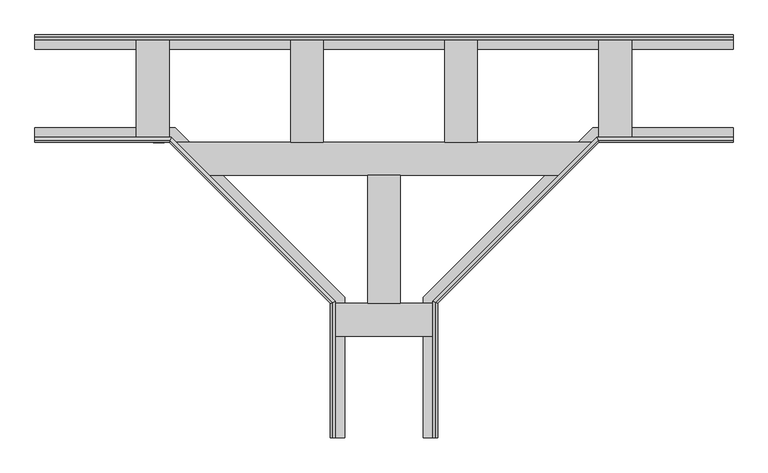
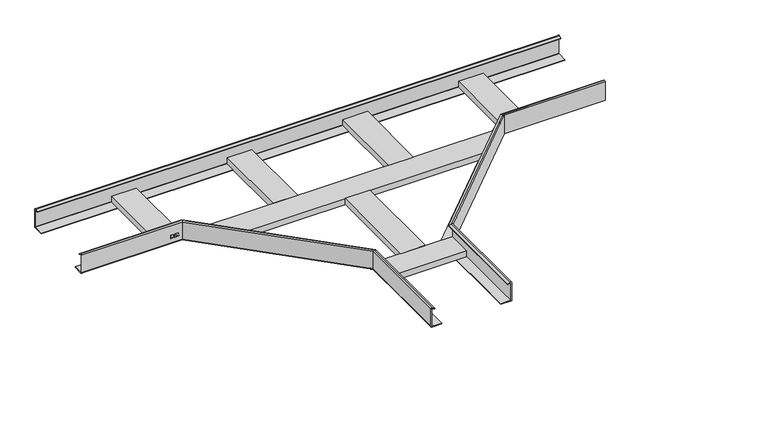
"""IFC4 building model written with IfcOpenShell, lengths in millimetres: cable carrier fitting geometry, КМ Профиль L Т-отвод «Быстрый монтаж» : Т-отвод «Быстрый монтаж»."""

import ifcopenshell
import ifcopenshell.guid

model = None  # the IFC model being written
_history = None  # IfcOwnerHistory: only IFC2X3 demands one
_inside = {}  # id of a spatial element -> (the spatial element, [elements in it])
_under = {}  # id of a project, library or spatial element -> (it, [spatial elements below it])
_declared = {}  # id of a project -> (the project, [libraries it declares])
_typed = {}  # id of a type object -> (the type object, [elements of that type])
_made_of = {}  # id of a material, layer set ... -> (it, [elements and type objects made of it])


def new_model(schema):
    """Start an empty IFC model of exactly this schema.

    Asked for "IFC4X3", IfcOpenShell would pick the latest addendum, in which some entities
    have other attributes; the version numbers below select the first issue.
    IFC2X3 requires an IfcOwnerHistory on every rooted entity: one is made here for all.
    """
    global model, _history
    if schema == "IFC4X3":
        model = ifcopenshell.file(schema_version=(4, 3, 0, 0))
    else:
        model = ifcopenshell.file(schema=schema)
    _inside.clear()
    _under.clear()
    _declared.clear()
    _typed.clear()
    _made_of.clear()
    _history = None
    if model.schema == "IFC2X3":
        org = make("IfcOrganization", Name="unknown")
        user = make(
            "IfcPersonAndOrganization",
            ThePerson=make("IfcPerson", FamilyName="unknown"),
            TheOrganization=org,
        )
        app = make(
            "IfcApplication",
            ApplicationDeveloper=org,
            Version="unknown",
            ApplicationFullName="unknown",
            ApplicationIdentifier="unknown",
        )
        _history = make(
            "IfcOwnerHistory",
            OwningUser=user,
            OwningApplication=app,
            ChangeAction="ADDED",
            CreationDate=0,
        )
    return model


def make(cls, **values):
    """One entity of the class cls with the attributes given. An attribute that is None is left unset."""
    return model.create_entity(
        cls, **{name: value for name, value in values.items() if value is not None}
    )


def rooted(cls, **values):
    """An entity with a GlobalId (a new one), such as an element, a storey or a relation."""
    return make(cls, GlobalId=ifcopenshell.guid.new(), OwnerHistory=_history, **values)


def si_unit(unit_type, name, prefix=None):
    """IfcSIUnit, for example si_unit("LENGTHUNIT", "METRE", prefix="MILLI")."""
    return make("IfcSIUnit", UnitType=unit_type, Prefix=prefix, Name=name)


def assignment(units):
    """IfcUnitAssignment: the units of a project."""
    return None if units is None else make("IfcUnitAssignment", Units=units)


def point(xyz):
    """IfcCartesianPoint."""
    return None if xyz is None else make("IfcCartesianPoint", Coordinates=xyz)


def direction(xyz):
    """IfcDirection."""
    return None if xyz is None else make("IfcDirection", DirectionRatios=xyz)


def frame(location, z_axis=None, x_axis=None):
    """IfcAxis2Placement3D, a coordinate frame: its origin and axes. An axis left out is left unset."""
    return make(
        "IfcAxis2Placement3D",
        Location=point(location),
        Axis=direction(z_axis),
        RefDirection=direction(x_axis),
    )


def frame_2d(location, x_axis=None):
    """IfcAxis2Placement2D, a coordinate frame in the plane: its origin and x axis."""
    return make(
        "IfcAxis2Placement2D", Location=point(location), RefDirection=direction(x_axis)
    )


def origin():
    """The frame at (0, 0, 0) with its axes left unset."""
    return frame((0.0, 0.0, 0.0))


def place(relative_to, where):
    """IfcLocalPlacement: puts the frame where relative to a parent placement (None: the world)."""
    return make(
        "IfcLocalPlacement", PlacementRelTo=relative_to, RelativePlacement=where
    )


def context(
    kind, dimensions, precision=None, world=None, true_north=None, identifier=None
):
    """IfcGeometricRepresentationContext, for example the 3D "Model" context."""
    return make(
        "IfcGeometricRepresentationContext",
        ContextIdentifier=identifier,
        ContextType=kind,
        CoordinateSpaceDimension=dimensions,
        Precision=precision,
        WorldCoordinateSystem=world,
        TrueNorth=true_north,
    )


def project(units=None, contexts=None):
    """IfcProject with its units and contexts."""
    return rooted(
        "IfcProject",
        Name="project",
        RepresentationContexts=contexts,
        UnitsInContext=assignment(units),
    )


def spatial(cls, under=None, at=None, **own):
    """A site, building, storey or space (cls), placed at a placement, below another one or the project."""
    s = rooted(cls, ObjectPlacement=at, **own)
    if under is not None:
        _under.setdefault(under.id(), (under, []))[1].append(s)
    return s


def polyline(points):
    """IfcPolyline through the points."""
    return make("IfcPolyline", Points=[point(p) for p in points])


def circle_curve(where, radius):
    """IfcCircle in the frame where."""
    return make("IfcCircle", Position=where, Radius=radius)


def ellipse_curve(where, semi_axis1, semi_axis2):
    """IfcEllipse in the frame where."""
    return make(
        "IfcEllipse", Position=where, SemiAxis1=semi_axis1, SemiAxis2=semi_axis2
    )


def trimmed(basis, trim1, trim2, sense, master):
    """IfcTrimmedCurve: the piece of a basis curve between two trims."""
    return make(
        "IfcTrimmedCurve",
        BasisCurve=basis,
        Trim1=trim1,
        Trim2=trim2,
        SenseAgreement=sense,
        MasterRepresentation=master,
    )


def segment(curve, same_sense, transition):
    """IfcCompositeCurveSegment."""
    return make(
        "IfcCompositeCurveSegment",
        Transition=transition,
        SameSense=same_sense,
        ParentCurve=curve,
    )


def composite_curve(segments, self_intersect=None):
    """IfcCompositeCurve: segments joined end to end."""
    return make("IfcCompositeCurve", Segments=segments, SelfIntersect=self_intersect)


def outline(outer, holes=None, kind="AREA"):
    """IfcArbitraryClosedProfileDef: a profile drawn as a closed curve; with holes, ...WithVoids."""
    if holes is None:
        return make("IfcArbitraryClosedProfileDef", ProfileType=kind, OuterCurve=outer)
    return make(
        "IfcArbitraryProfileDefWithVoids",
        ProfileType=kind,
        OuterCurve=outer,
        InnerCurves=holes,
    )


def extrude(swept, where, along, depth):
    """IfcExtrudedAreaSolid: the profile swept, set in the frame where, extruded along a direction by depth."""
    return make(
        "IfcExtrudedAreaSolid",
        SweptArea=swept,
        Position=where,
        ExtrudedDirection=direction(along),
        Depth=depth,
    )


def shape(context_of_items, identifier, shape_type, items):
    """IfcShapeRepresentation: the items that make up one representation, for example the "Body"."""
    return make(
        "IfcShapeRepresentation",
        ContextOfItems=context_of_items,
        RepresentationIdentifier=identifier,
        RepresentationType=shape_type,
        Items=items,
    )


def source(mapping_origin, context_of_items, identifier, shape_type, items):
    """IfcRepresentationMap: a shape defined once, which mapped items show again and again."""
    return make(
        "IfcRepresentationMap",
        MappingOrigin=mapping_origin,
        MappedRepresentation=shape(context_of_items, identifier, shape_type, items),
    )


def transform(
    local_origin,
    x_axis=None,
    y_axis=None,
    z_axis=None,
    scale=None,
    scale2=None,
    scale3=None,
    uniform=True,
):
    """IfcCartesianTransformationOperator3D, or its non-uniform kind. x_axis, y_axis, z_axis: its Axis1, 2, 3."""
    if uniform:
        return make(
            "IfcCartesianTransformationOperator3D",
            Axis1=direction(x_axis),
            Axis2=direction(y_axis),
            LocalOrigin=point(local_origin),
            Scale=scale,
            Axis3=direction(z_axis),
        )
    return make(
        "IfcCartesianTransformationOperator3DnonUniform",
        Axis1=direction(x_axis),
        Axis2=direction(y_axis),
        LocalOrigin=point(local_origin),
        Scale=scale,
        Axis3=direction(z_axis),
        Scale2=scale2,
        Scale3=scale3,
    )


def mapped(mapping_source, mapping_target):
    """IfcMappedItem: shows the shape of a source again, moved by a transform."""
    return make(
        "IfcMappedItem", MappingSource=mapping_source, MappingTarget=mapping_target
    )


def made_of(thing, what):
    """Note that an element or type object is made of a material, layer set ...; save() writes the relation."""
    if what is not None:
        _made_of.setdefault(what.id(), (what, []))[1].append(thing)
    return thing


def element(
    cls,
    number,
    at=None,
    inside=None,
    cuts=None,
    type_object=None,
    material=None,
    context=None,
    identifier="Body",
    shape_type=None,
    held_by="IfcProductDefinitionShape",
    body=None,
    shapes=None,
    **own,
):
    """One element of the class cls, such as IfcWall. Its Tag is "e" and its number.

    at: its placement. inside: the storey or other place that contains it. cuts: it is an
    opening in that element (IfcRelVoidsElement). A single representation is given by context,
    identifier, shape_type and body (its items); several are given by shapes. held_by: the class
    of the entity that holds the representations. save() writes the other relations.
    """
    e = rooted(cls, Tag="e%d" % number, ObjectPlacement=at, **own)
    if body is not None:
        shapes = [shape(context, identifier, shape_type, body)]
    if shapes is not None:
        e.Representation = make(held_by, Representations=shapes)
    if inside is not None:
        _inside.setdefault(inside.id(), (inside, []))[1].append(e)
    if cuts is not None:
        rooted(
            "IfcRelVoidsElement", RelatingBuildingElement=cuts, RelatedOpeningElement=e
        )
    if type_object is not None:
        _typed.setdefault(type_object.id(), (type_object, []))[1].append(e)
    return made_of(e, material)


def aggregate(whole, parts):
    """IfcRelAggregates: a whole, such as a stair, and the parts it consists of."""
    return rooted("IfcRelAggregates", RelatingObject=whole, RelatedObjects=parts)


def save(model, path):
    """Write the relations noted so far, then the file.

    IfcRelAggregates (storeys below a building ...), IfcRelContainedInSpatialStructure (elements
    in a storey), IfcRelDefinesByType, IfcRelAssociatesMaterial and IfcRelDeclares: one each for
    every whole, place, type object, material and project.
    """
    for whole, parts in _under.values():
        aggregate(whole, parts)
    for where, things in _inside.values():
        rooted(
            "IfcRelContainedInSpatialStructure",
            RelatedElements=things,
            RelatingStructure=where,
        )
    for kind, things in _typed.values():
        rooted("IfcRelDefinesByType", RelatedObjects=things, RelatingType=kind)
    for what, things in _made_of.values():
        rooted("IfcRelAssociatesMaterial", RelatedObjects=things, RelatingMaterial=what)
    for by, libraries in _declared.values():
        rooted("IfcRelDeclares", RelatingContext=by, RelatedDefinitions=libraries)
    model.write(path)


def plane_surface(at):
    """IfcPlane: the flat surface through the origin of the frame at, square to its z axis."""
    return make("IfcPlane", Position=at)


def cylinder_surface(at, radius):
    """IfcCylindricalSurface: all points at the distance radius from the z axis of the frame at."""
    return make("IfcCylindricalSurface", Position=at, Radius=radius)


def revolved_surface(curve, axis_point, axis_direction):
    """IfcSurfaceOfRevolution: the curve turned about the line through axis_point along axis_direction."""
    return make(
        "IfcSurfaceOfRevolution",
        SweptCurve=make("IfcArbitraryOpenProfileDef", ProfileType="CURVE", Curve=curve),
        AxisPosition=make("IfcAxis1Placement", Location=point(axis_point), Axis=direction(axis_direction)),
    )


def advanced_brep(points, edges, surfaces, faces):
    """IfcAdvancedBrep: a solid bounded by faces that lie on surfaces and meet in shared edges.

    An edge is (start, end): straight between two places in points (the first is 0);
    or (start, end, curve); or (start, end, curve, False) where it runs against its curve.
    A face is (place in surfaces, loops), or (place, loops, False) where it looks against
    its surface's normal. A loop lists edges by number (the first is 1), with a minus sign
    where the edge is run from its end to its start. The first loop is the outer one.
    """
    corners = [point(p) for p in points]
    vertices = [make("IfcVertexPoint", VertexGeometry=c) for c in corners]
    made = []
    for start, end, *more in edges:
        made.append(
            make(
                "IfcEdgeCurve",
                EdgeStart=vertices[start],
                EdgeEnd=vertices[end],
                EdgeGeometry=more[0] if more else make("IfcPolyline", Points=[corners[start], corners[end]]),
                SameSense=more[1] if len(more) > 1 else True,
            )
        )
    hull = []
    for where, loops, *sense in faces:
        bounds = []
        for j, loop in enumerate(loops):
            ring = [make("IfcOrientedEdge", EdgeElement=made[abs(k) - 1], Orientation=k > 0) for k in loop]
            bounds.append(
                make(
                    "IfcFaceOuterBound" if j == 0 else "IfcFaceBound",
                    Bound=make("IfcEdgeLoop", EdgeList=ring),
                    Orientation=True,
                )
            )
        hull.append(make("IfcAdvancedFace", Bounds=bounds, FaceSurface=surfaces[where], SameSense=sense[0] if sense else True))
    return make("IfcAdvancedBrep", Outer=make("IfcClosedShell", CfsFaces=hull))


def cable_carrier_fitting_00c6798b(model_context):
    return source(origin(), model_context, "Body", "SolidModel", [
        extrude(outline(polyline([(-1.986157, -429.2388781), (-9.737421, -429.2388781), (-9.737421, -425.6630512), (-6.5720802, -425.6630512), (-9.737421, -423.9588467), (-9.737421, -420.0604353), (-6.194034, -421.9277444), (-5.5086619, -424.1694955), (-1.986157, -421.703011), (-1.986157, -423.8289757), (-5.564509, -425.7316192), (-1.986157, -425.7316192), (-1.986157, -429.2388781)])), frame((0.0, -100.8, 0.0), z_axis=(0.0, 1.0, 0.0), x_axis=(0.0, 0.0, 1.0)), (0.0, 0.0, 1.0), 0.8),
        extrude(outline(polyline([(-9.737421, -417.9962759), (-5.0696135, -417.6126012), (-9.7434681, -416.2045824), (-9.7434681, -414.7300717), (-5.0541919, -413.2500032), (-9.7429915, -412.7725105), (-9.7429915, -408.8700699), (-1.9623682, -410.0615674), (-1.9623682, -413.2555223), (-5.0390232, -414.2768297), (-1.9647569, -415.0433304), (-1.9647569, -418.0740589), (-9.737421, -419.8943395), (-9.737421, -417.9962759)])), frame((0.0, -100.8, 0.0), z_axis=(0.0, 1.0, 0.0), x_axis=(0.0, 0.0, 1.0)), (0.0, 0.0, 1.0), 0.8),
        extrude(outline(polyline([(-400.0, -97.0), (-461.0, -97.0), (-461.0, 97.0), (-400.0, 97.0), (-400.0, -97.0)])), frame((0.0, 0.0, -23.5), z_axis=(0.0, 0.0, 1.0), x_axis=(1.0, 0.0, 0.0)), (0.0, 0.0, 1.0), 16.0),
        extrude(outline(polyline([(461.0, -97.0), (400.0, -97.0), (400.0, 97.0), (461.0, 97.0), (461.0, -97.0)])), frame((0.0, 0.0, -23.5), z_axis=(0.0, 0.0, 1.0), x_axis=(1.0, 0.0, 0.0)), (0.0, 0.0, 1.0), 16.0),
        extrude(outline(polyline([(-113.0, 97.0), (-113.0, -100.0), (-174.0, -100.0), (-174.0, 97.0), (-113.0, 97.0)])), frame((0.0, 0.0, -23.5), z_axis=(0.0, 0.0, 1.0), x_axis=(1.0, 0.0, 0.0)), (0.0, 0.0, 1.0), 16.0),
        extrude(outline(polyline([(113.0, -100.0), (113.0, 97.0), (174.0, 97.0), (174.0, -100.0), (113.0, -100.0)])), frame((0.0, 0.0, -23.5), z_axis=(0.0, 0.0, 1.0), x_axis=(1.0, 0.0, 0.0)), (0.0, 0.0, 1.0), 16.0),
        extrude(outline(polyline([(30.5, -161.0), (30.5, -400.0), (-30.5, -400.0), (-30.5, -161.0), (30.5, -161.0)])), frame((0.0, 0.0, -23.5), z_axis=(0.0, 0.0, 1.0), x_axis=(1.0, 0.0, 0.0)), (0.0, 0.0, 1.0), 16.0),
        extrude(outline(polyline([(-97.0, -400.0), (97.0, -400.0), (97.0, -461.0), (-97.0, -461.0), (-97.0, -400.0)])), frame((0.0, 0.0, -23.5), z_axis=(0.0, 0.0, 1.0), x_axis=(1.0, 0.0, 0.0)), (0.0, 0.0, 1.0), 16.0),
        extrude(outline(polyline([(331.9289322, -161.0), (-331.9289322, -161.0), (-392.9289322, -100.0), (392.9289322, -100.0), (331.9289322, -161.0)])), frame((0.0, 0.0, -23.5), z_axis=(0.0, 0.0, 1.0), x_axis=(1.0, 0.0, 0.0)), (0.0, 0.0, 1.0), 16.0),
        extrude(outline(composite_curve([segment(trimmed(circle_curve(frame_2d((97.5, -22.5)), 1.0), [point((97.5, -23.5))], [point((98.5, -22.5))], True, "CARTESIAN"), True, "CONTINUOUS"), segment(polyline([(98.5, -22.5), (98.5, 22.3007162)]), True, "CONTINUOUS"), segment(trimmed(circle_curve(frame_2d((97.5, 22.3007162)), 1.0), [point((98.5, 22.3007162))], [point((97.0305284, 23.1836637))], True, "CARTESIAN"), True, "CONTINUOUS"), segment(polyline([(97.0305284, 23.1836637), (91.0, 19.9771749), (91.0, 21.67603), (96.7671626, 24.7424847)]), True, "CONTINUOUS"), segment(trimmed(circle_curve(frame_2d((97.8, 22.8)), 2.2), [point((96.7671626, 24.7424847))], [point((100.0, 22.8))], False, "CARTESIAN"), True, "CONTINUOUS"), segment(polyline([(100.0, 22.8), (100.0, -22.8)]), True, "CONTINUOUS"), segment(trimmed(circle_curve(frame_2d((97.8, -22.8)), 2.2), [point((100.0, -22.8))], [point((97.8, -25.0))], False, "CARTESIAN"), True, "CONTINUOUS"), segment(polyline([(97.8, -25.0), (73.0, -25.0), (73.0, -23.5), (97.5, -23.5)]), True, "CONTINUOUS")], self_intersect=False)), frame((-650.0, 0.0, 0.0), z_axis=(1.0, 0.0, 0.0), x_axis=(0.0, 1.0, 0.0)), (0.0, 0.0, 1.0), 1300.0),
        advanced_brep(
        [(73.0, -650.0, -25.0), (100.0, -650.0, -25.0), (100.0, -650.0, 22.8), (96.7671626, -650.0, 24.7424847), (91.0, -650.0, 21.67603), (91.0, -650.0, 19.9771749), (97.0305284, -650.0, 23.1836637), (98.5, -650.0, 22.3007162), (98.5, -650.0, -23.5), (73.0, -650.0, -23.5), (73.0, -388.8162338, -25.0), (388.8162338, -73.0, -25.0), (650.0, -73.0, -25.0), (650.0, -100.0, -25.0), (400.0, -100.0, -25.0), (100.0, -400.0, -25.0), (100.0, -400.0, 22.8), (96.7671626, -398.6609149, 24.7424847), (91.0, -396.2720779, 21.67603), (91.0, -396.2720779, 19.9771749), (97.0305284, -398.7700046, 23.1836637), (98.5, -399.3786797, 22.3007162), (98.5, -399.3786797, -23.5), (399.3786797, -98.5, -23.5), (650.0, -98.5, -23.5), (650.0, -73.0, -23.5), (388.8162338, -73.0, -23.5), (73.0, -388.8162338, -23.5), (400.0, -100.0, 22.8), (398.6609149, -96.7671626, 24.7424847), (396.2720779, -91.0, 21.67603), (396.2720779, -91.0, 19.9771749), (398.7700046, -97.0305284, 23.1836637), (399.3786797, -98.5, 22.3007162), (650.0, -98.5, 22.3007162), (650.0, -97.0305284, 23.1836637), (650.0, -91.0, 19.9771749), (650.0, -91.0, 21.67603), (650.0, -96.7671626, 24.7424847), (650.0, -100.0, 22.8)],
        [
            (0, 1),
            (1, 2),
            (2, 3, circle_curve(frame((97.8, -650.0, 22.8), z_axis=(0.0, -1.0, 0.0), x_axis=(-1.0, 0.0, 0.0)), 2.2)),
            (3, 4),
            (4, 5),
            (5, 6),
            (6, 7, circle_curve(frame((97.5, -650.0, 22.3007162), z_axis=(0.0, 1.0, 0.0), x_axis=(-1.0, 0.0, 0.0)), 1.0)),
            (7, 8),
            (8, 9),
            (9, 0),
            (0, 10),
            (10, 11),
            (11, 12),
            (12, 13),
            (13, 14),
            (14, 15),
            (15, 1),
            (15, 16),
            (16, 2),
            (16, 17, ellipse_curve(frame((97.8, -399.0887302, 22.8), z_axis=(-0.382683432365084, -0.9238795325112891, 0.0), x_axis=(0.9238795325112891, -0.3826834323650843, 0.0)), 2.3812628, 2.2)),
            (17, 3),
            (17, 18),
            (18, 4),
            (18, 19),
            (19, 5),
            (19, 20),
            (20, 6),
            (20, 21, ellipse_curve(frame((97.5, -398.9644661, 22.3007162), z_axis=(0.382683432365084, 0.9238795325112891, 0.0), x_axis=(-0.9238795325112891, 0.3826834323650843, 0.0)), 1.0823922, 1.0)),
            (21, 7),
            (21, 22),
            (22, 8),
            (22, 23),
            (23, 24),
            (24, 25),
            (25, 26),
            (26, 27),
            (27, 9),
            (27, 10),
            (14, 28),
            (28, 16),
            (28, 29, ellipse_curve(frame((399.0887302, -97.8, 22.8), z_axis=(-0.9238795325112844, -0.38268343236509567, 0.0), x_axis=(0.382683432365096, -0.9238795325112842, 0.0)), 2.3812628, 2.2)),
            (29, 17),
            (29, 30),
            (30, 18),
            (30, 31),
            (31, 19),
            (31, 32),
            (32, 20),
            (32, 33, ellipse_curve(frame((398.9644661, -97.5, 22.3007162), z_axis=(0.9238795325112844, 0.38268343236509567, 0.0), x_axis=(-0.382683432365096, 0.9238795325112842, 0.0)), 1.0823922, 1.0)),
            (33, 21),
            (33, 23),
            (26, 11),
            (12, 25),
            (24, 34),
            (34, 35, circle_curve(frame((650.0, -97.5, 22.3007162), z_axis=(-1.0, 0.0, 0.0), x_axis=(0.0, 1.0, 0.0)), 1.0)),
            (35, 36),
            (36, 37),
            (37, 38),
            (38, 39, circle_curve(frame((650.0, -97.8, 22.8), z_axis=(1.0, 0.0, 0.0), x_axis=(0.0, 1.0, 0.0)), 2.2)),
            (39, 13),
            (39, 28),
            (38, 29),
            (37, 30),
            (36, 31),
            (35, 32),
            (34, 33),
        ],
        [
            plane_surface(frame((100.0, -650.0, 25.0), z_axis=(0.0, -1.0, 0.0), x_axis=(0.0, 0.0, 1.0))),
            plane_surface(frame((73.0, -650.0, -25.0), z_axis=(0.0, 0.0, -1.0), x_axis=(0.0, 1.0, 0.0))),
            plane_surface(frame((100.0, -650.0, -25.0), z_axis=(1.0, 0.0, 0.0), x_axis=(0.0, 1.0, 0.0))),
            cylinder_surface(frame((97.8, -650.0, 22.8), z_axis=(0.0, -1.0, 0.0), x_axis=(-1.0, 0.0, 0.0)), 2.2),
            plane_surface(frame((96.7671626, -650.0, 24.7424847), z_axis=(-0.46947156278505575, 0.0, 0.882947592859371), x_axis=(0.0, 1.0, 0.0))),
            plane_surface(frame((91.0, -650.0, 21.67603), z_axis=(-1.0, 0.0, 0.0), x_axis=(0.0, 1.0, 0.0))),
            plane_surface(frame((91.0, -650.0, 19.9771749), z_axis=(0.46947156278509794, 0.0, -0.8829475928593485), x_axis=(0.0, 1.0, 0.0))),
            revolved_surface(polyline([(96.5, -398.5502525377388, 22.3007162), (96.5, -650.0, 22.3007162)]), (97.5, -650.0, 22.3007162), (0.0, 1.0, 0.0)),
            plane_surface(frame((98.5, -650.0, 22.3007162), z_axis=(-1.0, 0.0, 0.0), x_axis=(0.0, 1.0, 0.0))),
            plane_surface(frame((98.5, -650.0, -23.5), z_axis=(0.0, 0.0, 1.0), x_axis=(0.0, 1.0, 0.0))),
            plane_surface(frame((73.0, -650.0, -23.5), z_axis=(-1.0, 0.0, 0.0), x_axis=(0.0, 1.0, 0.0))),
            plane_surface(frame((100.0, -400.0, -25.0), z_axis=(0.7071067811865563, -0.7071067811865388, 0.0), x_axis=(0.7071067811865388, 0.7071067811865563, 0.0))),
            cylinder_surface(frame((98.4443651, -398.4443651, 22.8), z_axis=(-0.7071067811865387, -0.7071067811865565, 0.0), x_axis=(-0.7071067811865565, 0.7071067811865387, 0.0)), 2.2),
            plane_surface(frame((96.7671626, -398.6609149, 24.7424847), z_axis=(-0.33196652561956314, 0.33196652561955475, 0.8829475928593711), x_axis=(0.7071067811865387, 0.7071067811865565, 0.0))),
            plane_surface(frame((91.0, -396.2720779, 21.67603), z_axis=(-0.7071067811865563, 0.7071067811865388, 0.0), x_axis=(0.7071067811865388, 0.7071067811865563, 0.0))),
            plane_surface(frame((91.0, -396.2720779, 19.9771749), z_axis=(0.3319665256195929, -0.3319665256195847, -0.8829475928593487), x_axis=(0.7071067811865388, 0.7071067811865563, 0.0))),
            revolved_surface(polyline([(398.550252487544, -96.49999995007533, 22.3007162), (96.49999995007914, -398.55025248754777, 22.3007162)]), (98.232233, -398.232233, 22.3007162), (0.7071067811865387, 0.7071067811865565, 0.0)),
            plane_surface(frame((98.5, -399.3786797, 22.3007162), z_axis=(-0.7071067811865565, 0.7071067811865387, 0.0), x_axis=(0.7071067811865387, 0.7071067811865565, 0.0))),
            plane_surface(frame((73.0, -388.8162338, -23.5), z_axis=(-0.7071067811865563, 0.7071067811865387, 0.0), x_axis=(0.7071067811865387, 0.7071067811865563, 0.0))),
            plane_surface(frame((650.0, -100.0, 25.0), z_axis=(1.0, 0.0, 0.0), x_axis=(0.0, 0.0, 1.0))),
            plane_surface(frame((400.0, -100.0, -25.0), z_axis=(0.0, -1.0, 0.0), x_axis=(1.0, 0.0, 0.0))),
            cylinder_surface(frame((400.0, -97.8, 22.8), z_axis=(-1.0, 0.0, 0.0), x_axis=(0.0, 1.0, 0.0)), 2.2),
            plane_surface(frame((398.6609149, -96.7671626, 24.7424847), z_axis=(0.0, 0.4694715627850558, 0.8829475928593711), x_axis=(1.0, 0.0, 0.0))),
            plane_surface(frame((396.2720779, -91.0, 21.67603), z_axis=(0.0, 1.0, 0.0), x_axis=(1.0, 0.0, 0.0))),
            plane_surface(frame((396.2720779, -91.0, 19.9771749), z_axis=(0.0, -0.46947156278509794, -0.8829475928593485), x_axis=(1.0, 0.0, 0.0))),
            revolved_surface(polyline([(650.0, -96.5, 22.3007162), (398.5502525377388, -96.5, 22.3007162)]), (400.0, -97.5, 22.3007162), (1.0, 0.0, 0.0)),
            plane_surface(frame((399.3786797, -98.5, 22.3007162), z_axis=(0.0, 1.0, 0.0), x_axis=(1.0, 0.0, 0.0))),
            plane_surface(frame((388.8162338, -73.0, -23.5), z_axis=(0.0, 1.0, 0.0), x_axis=(1.0, 0.0, 0.0))),
        ],
        [
            (0, [[1, 2, 3, 4, 5, 6, 7, 8, 9, 10]]),
            (1, [[-1, 11, 12, 13, 14, 15, 16, 17]]),
            (2, [[-2, -17, 18, 19]]),
            (3, [[-3, -19, 20, 21]]),
            (4, [[-4, -21, 22, 23]]),
            (5, [[-5, -23, 24, 25]]),
            (6, [[-6, -25, 26, 27]]),
            (7, [[-7, -27, 28, 29]]),
            (8, [[-8, -29, 30, 31]]),
            (9, [[-9, -31, 32, 33, 34, 35, 36, 37]]),
            (10, [[-10, -37, 38, -11]]),
            (11, [[-18, -16, 39, 40]]),
            (12, [[-20, -40, 41, 42]]),
            (13, [[-22, -42, 43, 44]]),
            (14, [[-24, -44, 45, 46]]),
            (15, [[-26, -46, 47, 48]]),
            (16, [[-28, -48, 49, 50]]),
            (17, [[-30, -50, 51, -32]]),
            (18, [[-38, -36, 52, -12]]),
            (19, [[53, -34, 54, 55, 56, 57, 58, 59, 60, -14]]),
            (20, [[-39, -15, -60, 61]]),
            (21, [[-41, -61, -59, 62]]),
            (22, [[-43, -62, -58, 63]]),
            (23, [[-45, -63, -57, 64]]),
            (24, [[-47, -64, -56, 65]]),
            (25, [[-49, -65, -55, 66]]),
            (26, [[-51, -66, -54, -33]]),
            (27, [[-52, -35, -53, -13]]),
        ],
    ),
        advanced_brep(
        [(-650.0, -73.0, -23.5), (-650.0, -73.0, -25.0), (-650.0, -97.8, -25.0), (-650.0, -100.0, -22.8), (-650.0, -100.0, 22.8), (-650.0, -96.7671626, 24.7424847), (-650.0, -91.0, 21.67603), (-650.0, -91.0, 19.9771749), (-650.0, -97.0305284, 23.1836637), (-650.0, -98.5, 22.3007162), (-650.0, -98.5, -22.5), (-650.0, -97.5, -23.5), (-388.8162338, -73.0, -23.5), (-388.8162338, -73.0, -25.0), (-73.0, -388.8162338, -25.0), (-73.0, -650.0, -25.0), (-97.8, -650.0, -25.0), (-97.8, -399.0887302, -25.0), (-399.0887302, -97.8, -25.0), (-400.0, -100.0, -22.8), (-400.0, -100.0, 22.8), (-399.3786797, -98.5, 22.3007162), (-399.3786797, -98.5, -22.5), (-398.9644661, -97.5, -23.5), (-97.5, -398.9644661, -23.5), (-97.5, -650.0, -23.5), (-73.0, -650.0, -23.5), (-73.0, -388.8162338, -23.5), (-100.0, -400.0, -22.8), (-100.0, -400.0, 22.8), (-98.5, -399.3786797, 22.3007162), (-98.5, -399.3786797, -22.5), (-98.5, -650.0, -22.5), (-98.5, -650.0, 22.3007162), (-97.0305284, -650.0, 23.1836637), (-91.0, -650.0, 19.9771749), (-91.0, -650.0, 21.67603), (-96.7671626, -650.0, 24.7424847), (-100.0, -650.0, 22.8), (-100.0, -650.0, -22.8), (-398.6609149, -96.7671626, 24.7424847), (-396.2720779, -91.0, 21.67603), (-396.2720779, -91.0, 19.9771749), (-398.7700046, -97.0305284, 23.1836637), (-96.7671626, -398.6609149, 24.7424847), (-91.0, -396.2720779, 21.67603), (-91.0, -396.2720779, 19.9771749), (-97.0305284, -398.7700046, 23.1836637)],
        [
            (0, 1),
            (1, 2),
            (2, 3, circle_curve(frame((-650.0, -97.8, -22.8), z_axis=(-1.0, 0.0, 0.0), x_axis=(0.0, 1.0, 0.0)), 2.2)),
            (3, 4),
            (4, 5, circle_curve(frame((-650.0, -97.8, 22.8), z_axis=(-1.0, 0.0, 0.0), x_axis=(0.0, 1.0, 0.0)), 2.2)),
            (5, 6),
            (6, 7),
            (7, 8),
            (8, 9, circle_curve(frame((-650.0, -97.5, 22.3007162), z_axis=(1.0, 0.0, 0.0), x_axis=(0.0, 1.0, 0.0)), 1.0)),
            (9, 10),
            (10, 11, circle_curve(frame((-650.0, -97.5, -22.5), z_axis=(1.0, 0.0, 0.0), x_axis=(0.0, 1.0, 0.0)), 1.0)),
            (11, 0),
            (0, 12),
            (12, 13),
            (13, 1),
            (13, 14),
            (14, 15),
            (15, 16),
            (16, 17),
            (17, 18),
            (18, 2),
            (18, 19, ellipse_curve(frame((-399.0887302, -97.8, -22.8), z_axis=(-0.9238795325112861, 0.38268343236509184, 0.0), x_axis=(-0.3826834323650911, -0.9238795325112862, 0.0)), 2.3812628, 2.2)),
            (19, 3),
            (19, 20),
            (20, 4),
            (9, 21),
            (21, 22),
            (22, 10),
            (22, 23, ellipse_curve(frame((-398.9644661, -97.5, -22.5), z_axis=(0.9238795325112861, -0.38268343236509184, 0.0), x_axis=(0.3826834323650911, 0.9238795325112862, 0.0)), 1.0823922, 1.0)),
            (23, 11),
            (23, 24),
            (24, 25),
            (25, 26),
            (26, 27),
            (27, 12),
            (27, 14),
            (17, 28, ellipse_curve(frame((-97.8, -399.0887302, -22.8), z_axis=(-0.3826834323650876, 0.9238795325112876, 0.0), x_axis=(-0.9238795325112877, -0.3826834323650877, 0.0)), 2.3812628, 2.2)),
            (28, 19),
            (28, 29),
            (29, 20),
            (21, 30),
            (30, 31),
            (31, 22),
            (31, 24, ellipse_curve(frame((-97.5, -398.9644661, -22.5), z_axis=(0.3826834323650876, -0.9238795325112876, 0.0), x_axis=(0.9238795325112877, 0.3826834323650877, 0.0)), 1.0823922, 1.0)),
            (25, 32, circle_curve(frame((-97.5, -650.0, -22.5), z_axis=(0.0, 1.0, 0.0), x_axis=(1.0, 0.0, 0.0)), 1.0)),
            (32, 33),
            (33, 34, circle_curve(frame((-97.5, -650.0, 22.3007162), z_axis=(0.0, 1.0, 0.0), x_axis=(1.0, 0.0, 0.0)), 1.0)),
            (34, 35),
            (35, 36),
            (36, 37),
            (37, 38, circle_curve(frame((-97.8, -650.0, 22.8), z_axis=(0.0, -1.0, 0.0), x_axis=(1.0, 0.0, 0.0)), 2.2)),
            (38, 39),
            (39, 16, circle_curve(frame((-97.8, -650.0, -22.8), z_axis=(0.0, -1.0, 0.0), x_axis=(1.0, 0.0, 0.0)), 2.2)),
            (15, 26),
            (39, 28),
            (38, 29),
            (30, 33),
            (32, 31),
            (20, 40, ellipse_curve(frame((-399.0887302, -97.8, 22.8), z_axis=(-0.9238795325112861, 0.38268343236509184, 0.0), x_axis=(-0.3826834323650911, -0.9238795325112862, 0.0)), 2.3812628, 2.2)),
            (40, 5),
            (40, 41),
            (41, 6),
            (41, 42),
            (42, 7),
            (42, 43),
            (43, 8),
            (43, 21, ellipse_curve(frame((-398.9644661, -97.5, 22.3007162), z_axis=(0.9238795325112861, -0.38268343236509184, 0.0), x_axis=(0.3826834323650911, 0.9238795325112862, 0.0)), 1.0823922, 1.0)),
            (29, 44, ellipse_curve(frame((-97.8, -399.0887302, 22.8), z_axis=(-0.3826834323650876, 0.9238795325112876, 0.0), x_axis=(-0.9238795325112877, -0.3826834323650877, 0.0)), 2.3812628, 2.2)),
            (44, 40),
            (44, 45),
            (45, 41),
            (45, 46),
            (46, 42),
            (46, 47),
            (47, 43),
            (47, 30, ellipse_curve(frame((-97.5, -398.9644661, 22.3007162), z_axis=(0.3826834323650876, -0.9238795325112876, 0.0), x_axis=(0.9238795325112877, 0.3826834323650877, 0.0)), 1.0823922, 1.0)),
            (37, 44),
            (36, 45),
            (35, 46),
            (34, 47),
        ],
        [
            plane_surface(frame((-650.0, -100.0, 25.0), z_axis=(-1.0, 0.0, 0.0), x_axis=(0.0, 0.0, 1.0))),
            plane_surface(frame((-650.0, -73.0, -23.5), z_axis=(0.0, 1.0, 0.0), x_axis=(1.0, 0.0, 0.0))),
            plane_surface(frame((-650.0, -73.0, -25.0), z_axis=(0.0, 0.0, -1.0), x_axis=(1.0, 0.0, 0.0))),
            cylinder_surface(frame((-650.0, -97.8, -22.8), z_axis=(-1.0, 0.0, 0.0), x_axis=(0.0, 1.0, 0.0)), 2.2),
            plane_surface(frame((-650.0, -100.0, -22.8), z_axis=(0.0, -1.0, 0.0), x_axis=(1.0, 0.0, 0.0))),
            plane_surface(frame((-650.0, -98.5, 22.3007162), z_axis=(0.0, 1.0, 0.0), x_axis=(1.0, 0.0, 0.0))),
            revolved_surface(polyline([(-398.55025253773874, -96.5, -22.5), (-650.0, -96.5, -22.5)]), (-650.0, -97.5, -22.5), (1.0, 0.0, 0.0)),
            plane_surface(frame((-650.0, -97.5, -23.5), z_axis=(0.0, 0.0, 1.0), x_axis=(1.0, 0.0, 0.0))),
            plane_surface(frame((-388.8162338, -73.0, -23.5), z_axis=(0.7071067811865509, 0.7071067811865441, 0.0), x_axis=(0.7071067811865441, -0.7071067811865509, 0.0))),
            cylinder_surface(frame((-398.4443651, -98.4443651, -22.8), z_axis=(-0.7071067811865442, 0.7071067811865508, 0.0), x_axis=(0.7071067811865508, 0.7071067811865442, 0.0)), 2.2),
            plane_surface(frame((-400.0, -100.0, -22.8), z_axis=(-0.7071067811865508, -0.7071067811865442, 0.0), x_axis=(0.7071067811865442, -0.7071067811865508, 0.0))),
            plane_surface(frame((-399.3786797, -98.5, 22.3007162), z_axis=(0.7071067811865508, 0.7071067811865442, 0.0), x_axis=(0.7071067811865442, -0.7071067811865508, 0.0))),
            revolved_surface(polyline([(-96.49999995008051, -398.5502524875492, -22.5), (-398.55025248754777, -96.49999995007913, -22.5)]), (-398.232233, -98.232233, -22.5), (0.7071067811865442, -0.7071067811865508, 0.0)),
            plane_surface(frame((-100.0, -650.0, 25.0), z_axis=(0.0, -1.0, 0.0), x_axis=(0.0, 0.0, 1.0))),
            plane_surface(frame((-73.0, -388.8162338, -23.5), z_axis=(1.0, 0.0, 0.0), x_axis=(0.0, -1.0, 0.0))),
            cylinder_surface(frame((-97.8, -400.0, -22.8), z_axis=(0.0, 1.0, 0.0), x_axis=(1.0, 0.0, 0.0)), 2.2),
            plane_surface(frame((-100.0, -400.0, -22.8), z_axis=(-1.0, 0.0, 0.0), x_axis=(0.0, -1.0, 0.0))),
            plane_surface(frame((-98.5, -399.3786797, 22.3007162), z_axis=(1.0, 0.0, 0.0), x_axis=(0.0, -1.0, 0.0))),
            revolved_surface(polyline([(-96.5, -650.0, -22.5), (-96.5, -398.5502525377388, -22.5)]), (-97.5, -400.0, -22.5), (0.0, -1.0, 0.0)),
            cylinder_surface(frame((-650.0, -97.8, 22.8), z_axis=(-1.0, 0.0, 0.0), x_axis=(0.0, 1.0, 0.0)), 2.2),
            plane_surface(frame((-650.0, -96.7671626, 24.7424847), z_axis=(0.0, 0.4694715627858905, 0.8829475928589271), x_axis=(1.0, 0.0, 0.0))),
            plane_surface(frame((-650.0, -91.0, 21.67603), z_axis=(0.0, 1.0, 0.0), x_axis=(1.0, 0.0, 0.0))),
            plane_surface(frame((-650.0, -91.0, 19.9771749), z_axis=(0.0, -0.4694715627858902, -0.8829475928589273), x_axis=(1.0, 0.0, 0.0))),
            revolved_surface(polyline([(-398.55025253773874, -96.5, 22.3007162), (-650.0, -96.5, 22.3007162)]), (-650.0, -97.5, 22.3007162), (1.0, 0.0, 0.0)),
            cylinder_surface(frame((-398.4443651, -98.4443651, 22.8), z_axis=(-0.7071067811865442, 0.7071067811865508, 0.0), x_axis=(0.7071067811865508, 0.7071067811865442, 0.0)), 2.2),
            plane_surface(frame((-398.6609149, -96.7671626, 24.7424847), z_axis=(0.3319665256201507, 0.3319665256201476, 0.8829475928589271), x_axis=(0.7071067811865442, -0.7071067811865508, 0.0))),
            plane_surface(frame((-396.2720779, -91.0, 21.67603), z_axis=(0.7071067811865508, 0.7071067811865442, 0.0), x_axis=(0.7071067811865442, -0.7071067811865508, 0.0))),
            plane_surface(frame((-396.2720779, -91.0, 19.9771749), z_axis=(-0.3319665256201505, -0.33196652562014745, -0.8829475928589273), x_axis=(0.7071067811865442, -0.7071067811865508, 0.0))),
            revolved_surface(polyline([(-96.49999995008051, -398.5502524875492, 22.3007162), (-398.55025248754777, -96.49999995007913, 22.3007162)]), (-398.232233, -98.232233, 22.3007162), (0.7071067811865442, -0.7071067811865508, 0.0)),
            cylinder_surface(frame((-97.8, -400.0, 22.8), z_axis=(0.0, 1.0, 0.0), x_axis=(1.0, 0.0, 0.0)), 2.2),
            plane_surface(frame((-96.7671626, -398.6609149, 24.7424847), z_axis=(0.4694715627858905, 0.0, 0.8829475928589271), x_axis=(0.0, -1.0, 0.0))),
            plane_surface(frame((-91.0, -396.2720779, 21.67603), z_axis=(1.0, 0.0, 0.0), x_axis=(0.0, -1.0, 0.0))),
            plane_surface(frame((-91.0, -396.2720779, 19.9771749), z_axis=(-0.4694715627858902, 0.0, -0.8829475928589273), x_axis=(0.0, -1.0, 0.0))),
            revolved_surface(polyline([(-96.5, -650.0, 22.3007162), (-96.5, -398.5502525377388, 22.3007162)]), (-97.5, -400.0, 22.3007162), (0.0, -1.0, 0.0)),
        ],
        [
            (0, [[1, 2, 3, 4, 5, 6, 7, 8, 9, 10, 11, 12]]),
            (1, [[-1, 13, 14, 15]]),
            (2, [[-2, -15, 16, 17, 18, 19, 20, 21]]),
            (3, [[-3, -21, 22, 23]]),
            (4, [[-4, -23, 24, 25]]),
            (5, [[-10, 26, 27, 28]]),
            (6, [[-11, -28, 29, 30]]),
            (7, [[-12, -30, 31, 32, 33, 34, 35, -13]]),
            (8, [[-14, -35, 36, -16]]),
            (9, [[-22, -20, 37, 38]]),
            (10, [[-24, -38, 39, 40]]),
            (11, [[-27, 41, 42, 43]]),
            (12, [[-29, -43, 44, -31]]),
            (13, [[-33, 45, 46, 47, 48, 49, 50, 51, 52, 53, -18, 54]]),
            (14, [[-36, -34, -54, -17]]),
            (15, [[-37, -19, -53, 55]]),
            (16, [[-39, -55, -52, 56]]),
            (17, [[-42, 57, -46, 58]]),
            (18, [[-44, -58, -45, -32]]),
            (19, [[-5, -25, 59, 60]]),
            (20, [[-6, -60, 61, 62]]),
            (21, [[-7, -62, 63, 64]]),
            (22, [[-8, -64, 65, 66]]),
            (23, [[-9, -66, 67, -26]]),
            (24, [[-59, -40, 68, 69]]),
            (25, [[-61, -69, 70, 71]]),
            (26, [[-63, -71, 72, 73]]),
            (27, [[-65, -73, 74, 75]]),
            (28, [[-67, -75, 76, -41]]),
            (29, [[-68, -56, -51, 77]]),
            (30, [[-70, -77, -50, 78]]),
            (31, [[-72, -78, -49, 79]]),
            (32, [[-74, -79, -48, 80]]),
            (33, [[-76, -80, -47, -57]]),
        ],
    ),
    ])


if __name__ == "__main__":
    model = new_model("IFC4")
    model_context = context("Model", 3, world=origin())
    ifc_project = project(units=[si_unit("LENGTHUNIT", "METRE", prefix="MILLI")], contexts=[model_context])
    site = spatial("IfcSite", under=ifc_project)
    building = spatial("IfcBuilding", under=site)
    placement = place(None, origin())
    cable_carrier_fitting_shape = cable_carrier_fitting_00c6798b(model_context)
    element("IfcCableCarrierFitting", 1, ObjectType="КМ Профиль L Т-отвод «Быстрый монтаж» : Т-отвод «Быстрый монтаж»", at=placement, inside=building, context=model_context, shape_type="MappedRepresentation", body=[
        mapped(cable_carrier_fitting_shape, transform((0.0, 0.0, 0.0), x_axis=(1.0, 0.0, 0.0), y_axis=(0.0, 1.0, 0.0), z_axis=(0.0, 0.0, 1.0))),
    ])
    save(model, "model.ifc")
